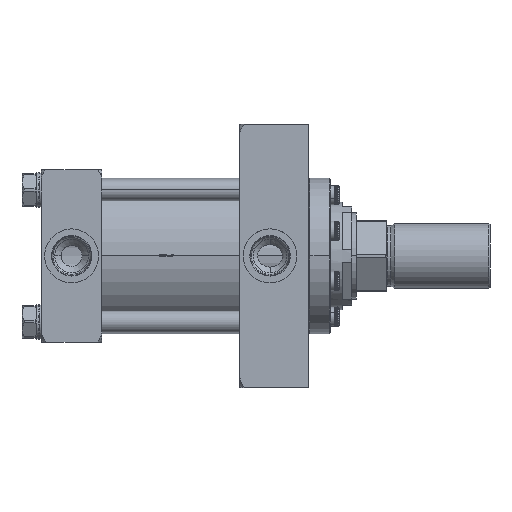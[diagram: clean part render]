
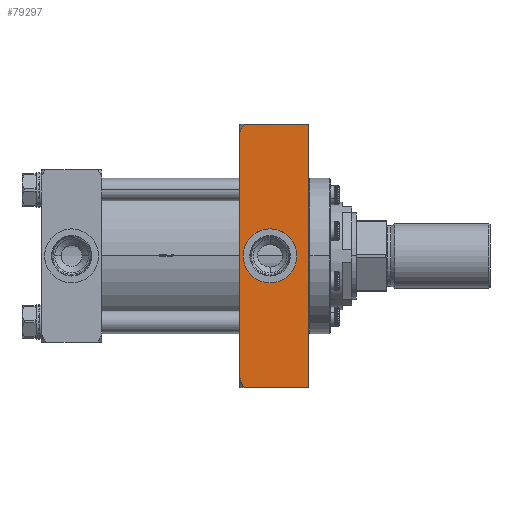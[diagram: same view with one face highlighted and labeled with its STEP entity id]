
A CAD part, top view. The second image highlights one B-rep face of the part: STEP entity #79297.
In plain terms, the highlighted planar face has unit normal (0, 0, 1).
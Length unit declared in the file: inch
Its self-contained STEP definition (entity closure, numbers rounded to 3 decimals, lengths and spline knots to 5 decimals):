
#636 = CARTESIAN_POINT ( 'NONE',  ( -4.21636, -3.65891, 2.5 ) ) ;
#2036 = CARTESIAN_POINT ( 'NONE',  ( -4.12574, 3.8125, 2.5 ) ) ;
#2505 = CARTESIAN_POINT ( 'NONE',  ( -4.25, -3.54006, 2.5 ) ) ;
#3879 = ORIENTED_EDGE ( 'NONE', *, *, #66452, .F. ) ;
#4332 = EDGE_CURVE ( 'NONE', #89553, #81262, #60511, .T. ) ;
#4400 = DIRECTION ( 'NONE',  ( 0., 1., 0. ) ) ;
#4709 = PLANE ( 'NONE',  #40517 ) ;
#4882 = LINE ( 'NONE', #62623, #27659 ) ;
#7126 = VECTOR ( 'NONE', #42494, 39.37008 ) ;
#7421 = VECTOR ( 'NONE', #59389, 39.37008 ) ;
#7805 = CARTESIAN_POINT ( 'NONE',  ( -4.25, -3.5125, 2.5 ) ) ;
#7966 = ORIENTED_EDGE ( 'NONE', *, *, #49017, .T. ) ;
#8396 = CARTESIAN_POINT ( 'NONE',  ( -2.25, 3.8125, 2.5 ) ) ;
#8786 = CARTESIAN_POINT ( 'NONE',  ( -4.25, -3.8125, 2.5 ) ) ;
#9299 = CARTESIAN_POINT ( 'NONE',  ( -4.23194, 3.62123, 2.5 ) ) ;
#10140 = VERTEX_POINT ( 'NONE', #39741 ) ;
#12345 = CARTESIAN_POINT ( 'NONE',  ( -4.25, 3.8125, 2.5 ) ) ;
#12992 = ORIENTED_EDGE ( 'NONE', *, *, #29134, .T. ) ;
#15837 = CARTESIAN_POINT ( 'NONE',  ( -4.14158, -3.7901, 2.5 ) ) ;
#18548 = LINE ( 'NONE', #12345, #65245 ) ;
#23550 = CARTESIAN_POINT ( 'NONE',  ( -4.25, 3.52637, 2.5 ) ) ;
#26362 = EDGE_CURVE ( 'NONE', #89553, #54315, #74215, .T. ) ;
#27659 = VECTOR ( 'NONE', #91774, 39.37008 ) ;
#29134 = EDGE_CURVE ( 'NONE', #55259, #32239, #66126, .T. ) ;
#31532 = CARTESIAN_POINT ( 'NONE',  ( -3.375, 0., 2.5 ) ) ;
#31980 = DIRECTION ( 'NONE',  ( 0., 1., 0. ) ) ;
#32239 = VERTEX_POINT ( 'NONE', #41478 ) ;
#32477 = CARTESIAN_POINT ( 'NONE',  ( -4.15659, 3.76767, 2.5 ) ) ;
#35067 = VERTEX_POINT ( 'NONE', #8396 ) ;
#36301 = LINE ( 'NONE', #65134, #7126 ) ;
#37626 = CARTESIAN_POINT ( 'NONE',  ( -4.22173, -3.64629, 2.5 ) ) ;
#38200 = CARTESIAN_POINT ( 'NONE',  ( -4.19847, 3.69706, 2.5 ) ) ;
#39741 = CARTESIAN_POINT ( 'NONE',  ( -4.25, 3.5125, 2.5 ) ) ;
#40418 = DIRECTION ( 'NONE',  ( 0., 0., -1. ) ) ;
#40517 = AXIS2_PLACEMENT_3D ( 'NONE', #41675, #76332, #62013 ) ;
#40684 = EDGE_CURVE ( 'NONE', #32239, #55259, #64904, .T. ) ;
#41478 = CARTESIAN_POINT ( 'NONE',  ( -3.375, -0.7815, 2.5 ) ) ;
#41675 = CARTESIAN_POINT ( 'NONE',  ( -4.25, -3.8125, 2.5 ) ) ;
#42494 = DIRECTION ( 'NONE',  ( 0., 1., 0. ) ) ;
#44738 = CARTESIAN_POINT ( 'NONE',  ( -4.24615, -3.56719, 2.5 ) ) ;
#45284 = AXIS2_PLACEMENT_3D ( 'NONE', #55956, #40418, #4400 ) ;
#46693 = CARTESIAN_POINT ( 'NONE',  ( -4.24247, 3.58134, 2.5 ) ) ;
#47128 = EDGE_CURVE ( 'NONE', #81262, #10140, #36301, .T. ) ;
#49017 = EDGE_CURVE ( 'NONE', #54315, #35067, #4882, .T. ) ;
#51409 = ORIENTED_EDGE ( 'NONE', *, *, #26362, .T. ) ;
#52216 = CARTESIAN_POINT ( 'NONE',  ( -4.23136, -3.62055, 2.5 ) ) ;
#52335 = CARTESIAN_POINT ( 'NONE',  ( -4.18509, 3.72107, 2.5 ) ) ;
#52685 = CARTESIAN_POINT ( 'NONE',  ( -4.19894, -3.69614, 2.5 ) ) ;
#53269 = CARTESIAN_POINT ( 'NONE',  ( -4.12574, 3.8125, 2.5 ) ) ;
#54315 = VERTEX_POINT ( 'NONE', #67848 ) ;
#55259 = VERTEX_POINT ( 'NONE', #62548 ) ;
#55956 = CARTESIAN_POINT ( 'NONE',  ( -3.375, 0., 2.5 ) ) ;
#58878 = CARTESIAN_POINT ( 'NONE',  ( -4.23563, -3.60735, 2.5 ) ) ;
#59132 = B_SPLINE_CURVE_WITH_KNOTS ( 'NONE', 3,
 ( #68522, #23550, #74306, #82856, #46693, #9299, #60856, #38200, #52335, #32477, #90012, #53269 ),
 .UNSPECIFIED., .F., .F.,
 ( 4, 2, 2, 2, 2, 4 ),
 ( 0.00462, 0.00565, 0.00669, 0.00876, 0.01083, 0.01291 ),
 .UNSPECIFIED. ) ;
#59357 = CARTESIAN_POINT ( 'NONE',  ( -4.18562, -3.72016, 2.5 ) ) ;
#59389 = DIRECTION ( 'NONE',  ( 1., 0., 0. ) ) ;
#59691 = CARTESIAN_POINT ( 'NONE',  ( -4.25, -3.5125, 2.5 ) ) ;
#60511 = B_SPLINE_CURVE_WITH_KNOTS ( 'NONE', 3,
 ( #74180, #15837, #88963, #59357, #52685, #636, #37626, #52216, #58878, #44738, #2505, #7805 ),
 .UNSPECIFIED., .F., .F.,
 ( 4, 2, 2, 2, 2, 4 ),
 ( 0.0094, 0.01149, 0.01358, 0.01462, 0.01566, 0.01775 ),
 .UNSPECIFIED. ) ;
#60856 = CARTESIAN_POINT ( 'NONE',  ( -4.22202, 3.6469, 2.5 ) ) ;
#61946 = EDGE_LOOP ( 'NONE', ( #87082, #51409, #7966, #71101, #3879, #85025 ) ) ;
#62013 = DIRECTION ( 'NONE',  ( 0., 1., 0. ) ) ;
#62056 = DIRECTION ( 'NONE',  ( 1., 0., 0. ) ) ;
#62548 = CARTESIAN_POINT ( 'NONE',  ( -3.375, 0.7815, 2.5 ) ) ;
#62623 = CARTESIAN_POINT ( 'NONE',  ( -2.25, -3.8125, 2.5 ) ) ;
#64904 = CIRCLE ( 'NONE', #45284, 0.7815 ) ;
#65134 = CARTESIAN_POINT ( 'NONE',  ( -4.25, -3.8125, 2.5 ) ) ;
#65245 = VECTOR ( 'NONE', #62056, 39.37008 ) ;
#66126 = CIRCLE ( 'NONE', #88998, 0.7815 ) ;
#66452 = EDGE_CURVE ( 'NONE', #10140, #81967, #59132, .T. ) ;
#67848 = CARTESIAN_POINT ( 'NONE',  ( -2.25, -3.8125, 2.5 ) ) ;
#68522 = CARTESIAN_POINT ( 'NONE',  ( -4.25, 3.5125, 2.5 ) ) ;
#69738 = EDGE_CURVE ( 'NONE', #81967, #35067, #18548, .T. ) ;
#70627 = FACE_BOUND ( 'NONE', #90412, .T. ) ;
#71098 = FACE_OUTER_BOUND ( 'NONE', #61946, .T. ) ;
#71101 = ORIENTED_EDGE ( 'NONE', *, *, #69738, .F. ) ;
#74180 = CARTESIAN_POINT ( 'NONE',  ( -4.12574, -3.8125, 2.5 ) ) ;
#74215 = LINE ( 'NONE', #8786, #7421 ) ;
#74274 = CARTESIAN_POINT ( 'NONE',  ( -4.12574, -3.8125, 2.5 ) ) ;
#74306 = CARTESIAN_POINT ( 'NONE',  ( -4.24903, 3.5402, 2.5 ) ) ;
#74696 = DIRECTION ( 'NONE',  ( 0., 0., -1. ) ) ;
#76332 = DIRECTION ( 'NONE',  ( 0., 0., -1. ) ) ;
#79297 = ADVANCED_FACE ( 'NONE', ( #71098, #70627 ), #4709, .F. ) ;
#81262 = VERTEX_POINT ( 'NONE', #59691 ) ;
#81967 = VERTEX_POINT ( 'NONE', #2036 ) ;
#82856 = CARTESIAN_POINT ( 'NONE',  ( -4.24525, 3.56781, 2.5 ) ) ;
#85025 = ORIENTED_EDGE ( 'NONE', *, *, #47128, .F. ) ;
#87082 = ORIENTED_EDGE ( 'NONE', *, *, #4332, .F. ) ;
#88963 = CARTESIAN_POINT ( 'NONE',  ( -4.15688, -3.76724, 2.5 ) ) ;
#88998 = AXIS2_PLACEMENT_3D ( 'NONE', #31532, #74696, #31980 ) ;
#89553 = VERTEX_POINT ( 'NONE', #74274 ) ;
#90012 = CARTESIAN_POINT ( 'NONE',  ( -4.14144, 3.79029, 2.5 ) ) ;
#90412 = EDGE_LOOP ( 'NONE', ( #12992, #93540 ) ) ;
#91774 = DIRECTION ( 'NONE',  ( 0., 1., 0. ) ) ;
#93540 = ORIENTED_EDGE ( 'NONE', *, *, #40684, .T. ) ;
